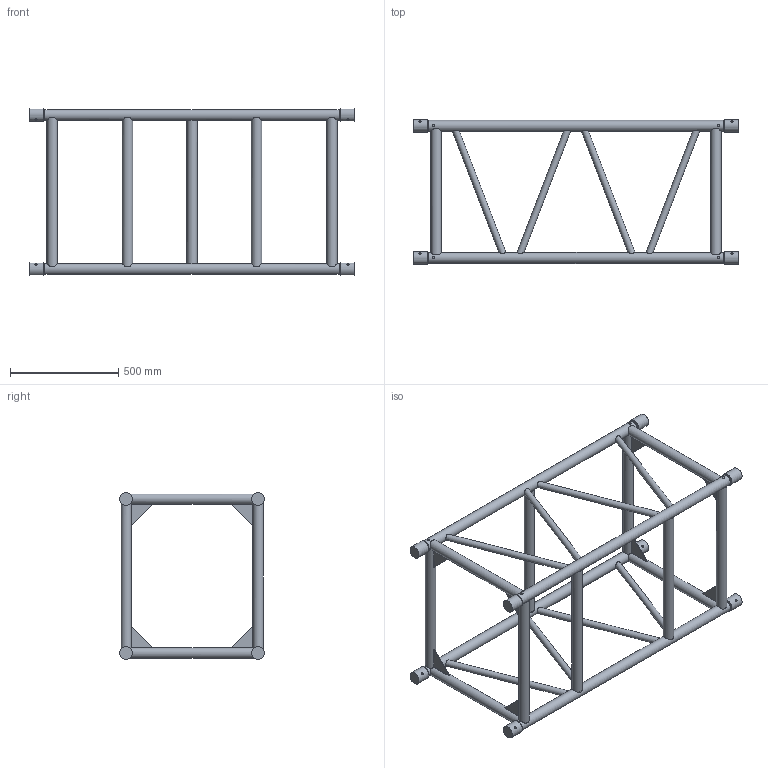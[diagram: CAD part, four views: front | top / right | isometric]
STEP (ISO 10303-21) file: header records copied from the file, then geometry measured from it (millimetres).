
FILE_DESCRIPTION(/* description */ (''),/* implementation_level */ '2;1');
FILE_NAME(/* name */ 'C:\Users\adrian.toca\Desktop\111110173.stp',/* time_stamp */ '2016-12-07T15:45:11+02:00',/* author */ ('adrian.toca'),/* organization */ (''),/* preprocessor_version */ 'ST-DEVELOPER v15.6',/* originating_system */ 'Autodesk Inventor 2015',/* authorisation */ '');
FILE_SCHEMA (('AUTOMOTIVE_DESIGN { 1 0 10303 214 3 1 1 }'));
Length unit declared in the file: millimetre
Products named in the file (1): 260031315
Bounding box: 1500 x 668.58 x 770.58 mm (x, y, z)
Volume: 28457054.8 mm3; surface area: 2560577 mm2
Topology: 1 solids, 1 shells, 211 faces, 543 edges, 336 vertices
Faces by surface type: plane 148, cylinder 55, cone 8
Full cylindrical faces by diameter (mm): 10 x8, 30 x8, 48.3 x7, 48.302 x4, 50 x4, 58.8 x8
Entity records: 8415 total; most frequent: CARTESIAN_POINT 3428, DIRECTION 916, ORIENTED_EDGE 904, EDGE_CURVE 444, AXIS2_PLACEMENT_3D 384, EDGE_LOOP 328, VERTEX_POINT 304, STYLED_ITEM 212
